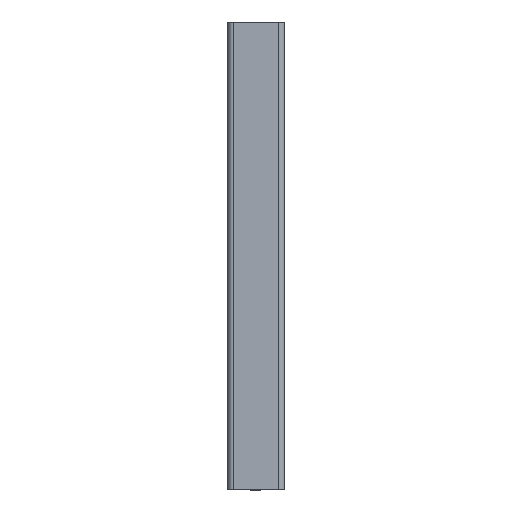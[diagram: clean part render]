
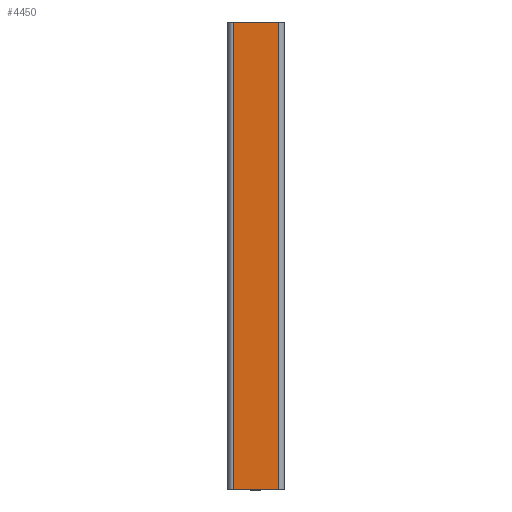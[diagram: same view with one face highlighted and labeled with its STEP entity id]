
A CAD part, left-side view. The second image highlights one B-rep face of the part: STEP entity #4450.
In plain terms, the highlighted planar face has unit normal (-1, 0, 0).
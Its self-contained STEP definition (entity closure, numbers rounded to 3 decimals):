
#431=DIRECTION('',(0.,-1.,0.));
#432=VECTOR('',#431,32.);
#433=CARTESIAN_POINT('',(-20.,16.,0.));
#434=LINE('',#433,#432);
#565=DIRECTION('',(0.,-1.,0.));
#566=VECTOR('',#565,32.);
#567=CARTESIAN_POINT('',(-20.,16.,331.175));
#568=LINE('',#567,#566);
#1768=DIRECTION('',(0.,0.,-1.));
#1769=VECTOR('',#1768,331.175);
#1770=CARTESIAN_POINT('',(-20.,16.,331.175));
#1771=LINE('',#1770,#1769);
#1795=DIRECTION('',(0.,0.,-1.));
#1796=VECTOR('',#1795,331.175);
#1797=CARTESIAN_POINT('',(-20.,-16.,331.175));
#1798=LINE('',#1797,#1796);
#1964=CARTESIAN_POINT('',(-20.,-16.,0.));
#1965=VERTEX_POINT('',#1964);
#1966=CARTESIAN_POINT('',(-20.,-16.,331.175));
#1967=VERTEX_POINT('',#1966);
#2156=CARTESIAN_POINT('',(-20.,16.,0.));
#2157=VERTEX_POINT('',#2156);
#2162=CARTESIAN_POINT('',(-20.,16.,331.175));
#2163=VERTEX_POINT('',#2162);
#4438=CARTESIAN_POINT('',(-20.,20.,0.));
#4439=DIRECTION('',(-1.,0.,0.));
#4440=DIRECTION('',(0.,-1.,0.));
#4441=AXIS2_PLACEMENT_3D('',#4438,#4439,#4440);
#4442=PLANE('',#4441);
#4444=ORIENTED_EDGE('',*,*,#4443,.T.);
#4445=ORIENTED_EDGE('',*,*,#2521,.F.);
#4446=ORIENTED_EDGE('',*,*,#4430,.F.);
#4447=ORIENTED_EDGE('',*,*,#2691,.T.);
#4448=EDGE_LOOP('',(#4444,#4445,#4446,#4447));
#4449=FACE_OUTER_BOUND('',#4448,.F.);
#2521=EDGE_CURVE('',#2157,#1965,#434,.T.);
#2691=EDGE_CURVE('',#2163,#1967,#568,.T.);
#4430=EDGE_CURVE('',#2163,#2157,#1771,.T.);
#4443=EDGE_CURVE('',#1967,#1965,#1798,.T.);
#4450=ADVANCED_FACE('',(#4449),#4442,.T.);
